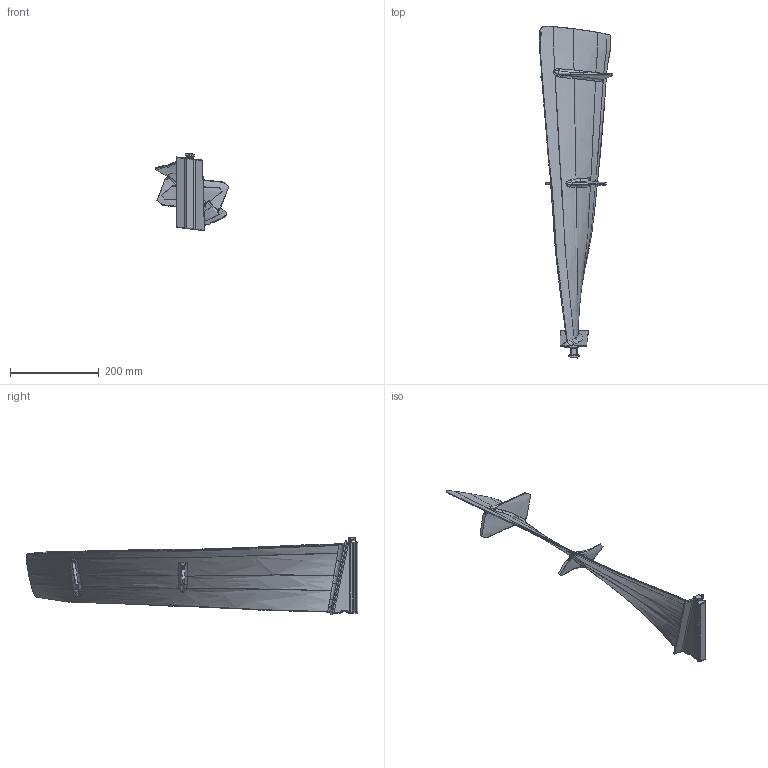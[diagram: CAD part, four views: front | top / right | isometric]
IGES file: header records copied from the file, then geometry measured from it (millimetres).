
Start section:  PTC IGES file: D:\Samples\Completed\Large Airfoil\Turbine Blade Clean C AD Inches.igs
Global section: file name: D:\Samples\Completed\Large Airfoil\Turbine Blade Clean CAD Inches.igs; native system:  by Parametric Technology Corporation; preprocessor: 2012230; organization: Unknown; date: 20180608.155747; units: inch
Bounding box: 164.99 x 747.24 x 174.58 mm (x, y, z)
Surface area: 296313.1 mm2 (no closed solid volume)
Topology: 0 solids, 0 shells, 302 faces, 1418 edges, 1403 vertices
Faces by surface type: bspline 216, revolution 83, extrusion 3
